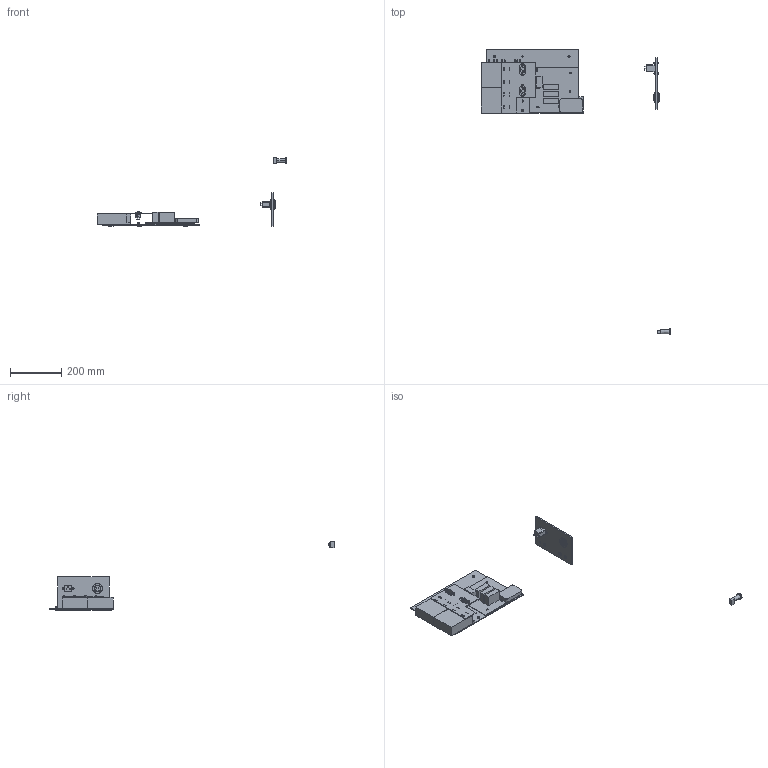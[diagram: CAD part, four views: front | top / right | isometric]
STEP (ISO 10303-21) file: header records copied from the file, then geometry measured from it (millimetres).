
FILE_DESCRIPTION(/* description */ (''),/* implementation_level */ '2;1');
FILE_NAME(/* name */ 'electronics',/* time_stamp */ '2013-11-26T23:56:51+01:00',/* author */ (''),/* organization */ (''),/* preprocessor_version */ 'ST-DEVELOPER v14',/* originating_system */ '',/* authorisation */ '');
FILE_SCHEMA (('AUTOMOTIVE_DESIGN'));
Length unit declared in the file: millimetre
Products named in the file (6): Document; nut tslot, post, M5; screw DIN912-like, M5x08; washer Schnorr-like, lock, M3; screw DIN912-like, M3x10; screw ISO7380, button, M3x06
Assembly tree (20 placements, depth 2):
  Document
    nut tslot, post, M5  x3
    screw DIN912-like, M5x08  x3
    washer Schnorr-like, lock, M3  x6
    screw DIN912-like, M3x10  x4
    screw ISO7380, button, M3x06  x4
Bounding box: 735 x 1110 x 267.2 mm (x, y, z)
Volume: 1780865 mm3; surface area: 522491.7 mm2
Topology: 38 solids, 134 shells, 1202 faces, 3139 edges, 2141 vertices
Faces by surface type: bspline 723, plane 479
Entity records: 61480 total; most frequent: CARTESIAN_POINT 30783, ORIENTED_EDGE 4658, PCURVE 4658, DEFINITIONAL_REPRESENTATION 4658, B_SPLINE_CURVE_WITH_KNOTS 4625, SURFACE_CURVE 2441, EDGE_CURVE 2441, VERTEX_POINT 1663
